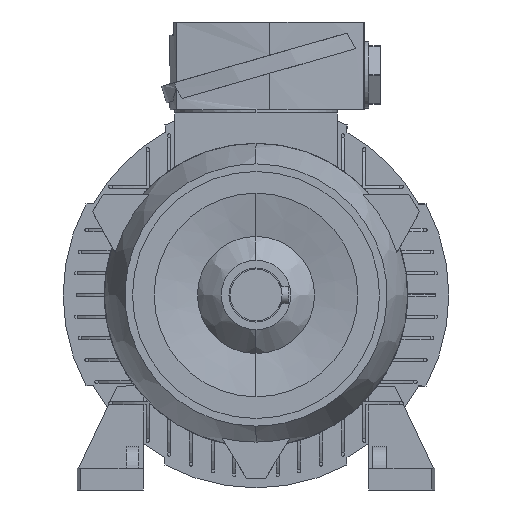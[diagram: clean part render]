
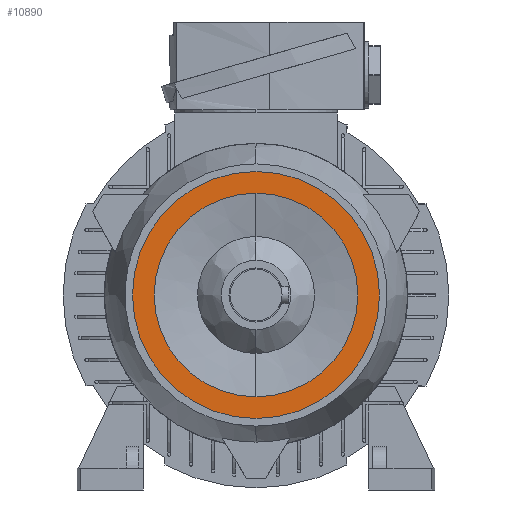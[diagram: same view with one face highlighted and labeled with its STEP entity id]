
A CAD part, left-side view. The second image highlights one B-rep face of the part: STEP entity #10890.
In plain terms, the highlighted planar face has unit normal (-1, 0, 0).
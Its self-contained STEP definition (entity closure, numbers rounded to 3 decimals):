
#1654 = CIRCLE ( 'NONE', #6918, 57. ) ;
#1951 = VERTEX_POINT ( 'NONE', #20056 ) ;
#2264 = CARTESIAN_POINT ( 'NONE',  ( -25., 0., 0. ) ) ;
#2265 = DIRECTION ( 'NONE',  ( -1., 0., 0. ) ) ;
#2266 = DIRECTION ( 'NONE',  ( 0., 0., 1. ) ) ;
#3096 = CIRCLE ( 'NONE', #18797, 57. ) ;
#3955 = EDGE_CURVE ( 'NONE', #7028, #1951, #3096, .T. ) ;
#4340 = EDGE_CURVE ( 'NONE', #7037, #7038, #18915, .T. ) ;
#4566 = CARTESIAN_POINT ( 'NONE',  ( -25., 0., 0. ) ) ;
#4567 = DIRECTION ( 'NONE',  ( 1., 0., 0. ) ) ;
#4568 = DIRECTION ( 'NONE',  ( 0., 0., 1. ) ) ;
#5122 = CARTESIAN_POINT ( 'NONE',  ( -25., 0., 0. ) ) ;
#5123 = DIRECTION ( 'NONE',  ( 1., 0., 0. ) ) ;
#5124 = DIRECTION ( 'NONE',  ( 0., 0., 1. ) ) ;
#6258 = EDGE_LOOP ( 'NONE', ( #21740, #21738 ) ) ;
#6660 = CARTESIAN_POINT ( 'NONE',  ( -25., 0., 57. ) ) ;
#6669 = CARTESIAN_POINT ( 'NONE',  ( -25., 0., -47. ) ) ;
#6670 = CARTESIAN_POINT ( 'NONE',  ( -25., 0., 47. ) ) ;
#6918 = AXIS2_PLACEMENT_3D ( 'NONE', #17553, #17554, #17555 ) ;
#7028 = VERTEX_POINT ( 'NONE', #6660 ) ;
#7037 = VERTEX_POINT ( 'NONE', #6669 ) ;
#7038 = VERTEX_POINT ( 'NONE', #6670 ) ;
#7679 = EDGE_LOOP ( 'NONE', ( #21736, #21735 ) ) ;
#8963 = CIRCLE ( 'NONE', #15499, 47. ) ;
#10890 = ADVANCED_FACE ( 'NONE', ( #19375, #19397 ), #16934, .T. ) ;
#15185 = AXIS2_PLACEMENT_3D ( 'NONE', #4566, #4567, #4568 ) ;
#15334 = AXIS2_PLACEMENT_3D ( 'NONE', #16932, #16931, #16936 ) ;
#15499 = AXIS2_PLACEMENT_3D ( 'NONE', #5122, #5123, #5124 ) ;
#15636 = EDGE_CURVE ( 'NONE', #7038, #7037, #8963, .T. ) ;
#16931 = DIRECTION ( 'NONE',  ( -1., 0., 0. ) ) ;
#16932 = CARTESIAN_POINT ( 'NONE',  ( -25., 52., 0. ) ) ;
#16934 = PLANE ( 'NONE',  #15334 ) ;
#16936 = DIRECTION ( 'NONE',  ( 0., 0., 1. ) ) ;
#17553 = CARTESIAN_POINT ( 'NONE',  ( -25., 0., 0. ) ) ;
#17554 = DIRECTION ( 'NONE',  ( -1., 0., 0. ) ) ;
#17555 = DIRECTION ( 'NONE',  ( 0., 0., 1. ) ) ;
#18797 = AXIS2_PLACEMENT_3D ( 'NONE', #2264, #2265, #2266 ) ;
#18915 = CIRCLE ( 'NONE', #15185, 47. ) ;
#19375 = FACE_BOUND ( 'NONE', #6258, .T. ) ;
#19397 = FACE_OUTER_BOUND ( 'NONE', #7679, .T. ) ;
#20056 = CARTESIAN_POINT ( 'NONE',  ( -25., 0., -57. ) ) ;
#21735 = ORIENTED_EDGE ( 'NONE', *, *, #23872, .T. ) ;
#21736 = ORIENTED_EDGE ( 'NONE', *, *, #3955, .T. ) ;
#21738 = ORIENTED_EDGE ( 'NONE', *, *, #4340, .T. ) ;
#21740 = ORIENTED_EDGE ( 'NONE', *, *, #15636, .T. ) ;
#23872 = EDGE_CURVE ( 'NONE', #1951, #7028, #1654, .T. ) ;
